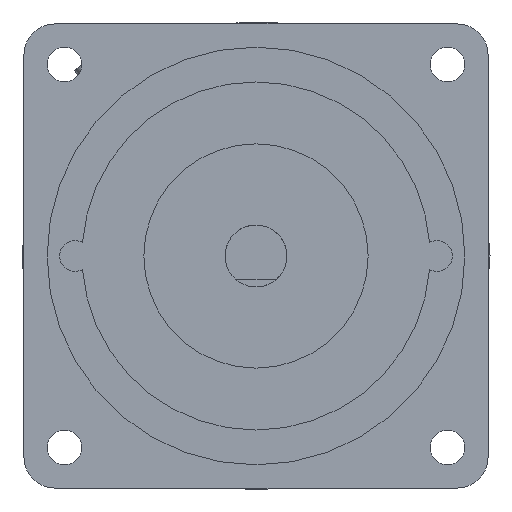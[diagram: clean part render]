
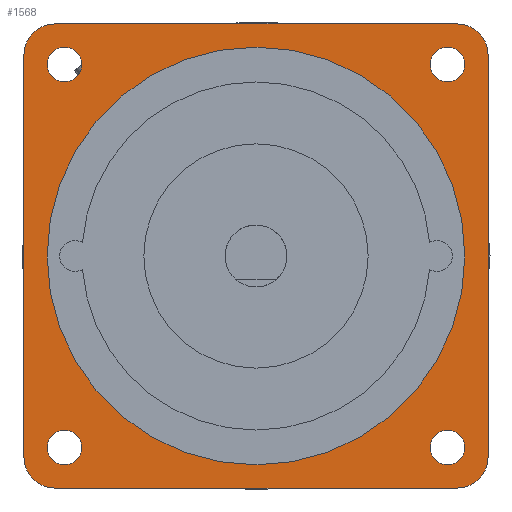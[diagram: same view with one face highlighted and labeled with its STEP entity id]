
A CAD part, front view. The second image highlights one B-rep face of the part: STEP entity #1568.
In plain terms, the highlighted planar face has unit normal (0, -1, 0).
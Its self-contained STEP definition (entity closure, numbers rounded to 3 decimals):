
#1342=CARTESIAN_POINT('',(24.749,-2.5,-26.999));
#1343=VERTEX_POINT('',#1342);
#1344=CARTESIAN_POINT('',(24.749,-2.5,-24.749));
#1345=DIRECTION('',(0.0,1.0,0.0));
#1346=DIRECTION('',(0.0,0.0,1.0));
#1347=AXIS2_PLACEMENT_3D('',#1344,#1345,#1346);
#1348=CIRCLE('',#1347,2.25);
#1349=EDGE_CURVE('',#1343,#1343,#1348,.T.);
#1370=CARTESIAN_POINT('',(-26.999,-2.5,-24.749));
#1371=VERTEX_POINT('',#1370);
#1372=CARTESIAN_POINT('',(-24.749,-2.5,-24.749));
#1373=DIRECTION('',(0.0,1.0,0.0));
#1374=DIRECTION('',(1.0,0.0,0.0));
#1375=AXIS2_PLACEMENT_3D('',#1372,#1373,#1374);
#1376=CIRCLE('',#1375,2.25);
#1377=EDGE_CURVE('',#1371,#1371,#1376,.T.);
#1398=CARTESIAN_POINT('',(-24.749,-2.5,26.999));
#1399=VERTEX_POINT('',#1398);
#1400=CARTESIAN_POINT('',(-24.749,-2.5,24.749));
#1401=DIRECTION('',(0.0,1.0,0.0));
#1402=DIRECTION('',(0.0,0.0,-1.0));
#1403=AXIS2_PLACEMENT_3D('',#1400,#1401,#1402);
#1404=CIRCLE('',#1403,2.25);
#1405=EDGE_CURVE('',#1399,#1399,#1404,.T.);
#1426=CARTESIAN_POINT('',(26.999,-2.5,24.749));
#1427=VERTEX_POINT('',#1426);
#1428=CARTESIAN_POINT('',(24.749,-2.5,24.749));
#1429=DIRECTION('',(0.0,1.0,0.0));
#1430=DIRECTION('',(-1.0,0.0,0.0));
#1431=AXIS2_PLACEMENT_3D('',#1428,#1429,#1430);
#1432=CIRCLE('',#1431,2.25);
#1433=EDGE_CURVE('',#1427,#1427,#1432,.T.);
#1454=CARTESIAN_POINT('',(26.0,-2.5,30.));
#1455=VERTEX_POINT('',#1454);
#1462=CARTESIAN_POINT('',(30.,-2.5,26.));
#1463=VERTEX_POINT('',#1462);
#1464=CARTESIAN_POINT('',(26.,-2.5,26.));
#1465=DIRECTION('',(0.0,1.0,0.0));
#1466=DIRECTION('',(0.707,0.0,0.707));
#1467=AXIS2_PLACEMENT_3D('',#1464,#1465,#1466);
#1468=CIRCLE('',#1467,4.0);
#1469=EDGE_CURVE('',#1455,#1463,#1468,.T.);
#1480=CARTESIAN_POINT('',(0.,-2.5,0.));
#1481=DIRECTION('',(0.0,1.0,0.0));
#1482=DIRECTION('',(0.0,0.0,1.0));
#1483=AXIS2_PLACEMENT_3D('',#1480,#1481,#1482);
#1484=PLANE('',#1483);
#1485=ORIENTED_EDGE('',*,*,#1469,.F.);
#1486=CARTESIAN_POINT('',(-26.,-2.5,30.));
#1487=VERTEX_POINT('',#1486);
#1488=CARTESIAN_POINT('',(-26.,-2.5,30.));
#1489=DIRECTION('',(1.0,0.0,0.0));
#1490=VECTOR('',#1489,52.0);
#1491=LINE('',#1488,#1490);
#1492=EDGE_CURVE('',#1487,#1455,#1491,.T.);
#1493=ORIENTED_EDGE('',*,*,#1492,.F.);
#1494=CARTESIAN_POINT('',(-30.,-2.5,26.));
#1495=VERTEX_POINT('',#1494);
#1496=CARTESIAN_POINT('',(-26.,-2.5,26.));
#1497=DIRECTION('',(0.0,1.0,0.0));
#1498=DIRECTION('',(-0.707,0.0,0.707));
#1499=AXIS2_PLACEMENT_3D('',#1496,#1497,#1498);
#1500=CIRCLE('',#1499,4.0);
#1501=EDGE_CURVE('',#1495,#1487,#1500,.T.);
#1502=ORIENTED_EDGE('',*,*,#1501,.F.);
#1503=CARTESIAN_POINT('',(-30.,-2.5,-26.));
#1504=VERTEX_POINT('',#1503);
#1505=CARTESIAN_POINT('',(-30.,-2.5,-26.));
#1506=DIRECTION('',(0.0,0.0,1.0));
#1507=VECTOR('',#1506,52.);
#1508=LINE('',#1505,#1507);
#1509=EDGE_CURVE('',#1504,#1495,#1508,.T.);
#1510=ORIENTED_EDGE('',*,*,#1509,.F.);
#1511=CARTESIAN_POINT('',(-26.,-2.5,-30.0));
#1512=VERTEX_POINT('',#1511);
#1513=CARTESIAN_POINT('',(-26.,-2.5,-26.));
#1514=DIRECTION('',(0.0,1.0,0.0));
#1515=DIRECTION('',(-0.707,0.0,-0.707));
#1516=AXIS2_PLACEMENT_3D('',#1513,#1514,#1515);
#1517=CIRCLE('',#1516,4.);
#1518=EDGE_CURVE('',#1512,#1504,#1517,.T.);
#1519=ORIENTED_EDGE('',*,*,#1518,.F.);
#1520=CARTESIAN_POINT('',(26.,-2.5,-30.));
#1521=VERTEX_POINT('',#1520);
#1522=CARTESIAN_POINT('',(26.,-2.5,-30.));
#1523=DIRECTION('',(-1.0,0.0,0.0));
#1524=VECTOR('',#1523,52.0);
#1525=LINE('',#1522,#1524);
#1526=EDGE_CURVE('',#1521,#1512,#1525,.T.);
#1527=ORIENTED_EDGE('',*,*,#1526,.F.);
#1528=CARTESIAN_POINT('',(30.,-2.5,-26.));
#1529=VERTEX_POINT('',#1528);
#1530=CARTESIAN_POINT('',(26.,-2.5,-26.));
#1531=DIRECTION('',(0.0,1.0,0.0));
#1532=DIRECTION('',(0.707,0.0,-0.707));
#1533=AXIS2_PLACEMENT_3D('',#1530,#1531,#1532);
#1534=CIRCLE('',#1533,4.0);
#1535=EDGE_CURVE('',#1529,#1521,#1534,.T.);
#1536=ORIENTED_EDGE('',*,*,#1535,.F.);
#1537=CARTESIAN_POINT('',(30.,-2.5,26.0));
#1538=DIRECTION('',(0.0,0.0,-1.0));
#1539=VECTOR('',#1538,52.);
#1540=LINE('',#1537,#1539);
#1541=EDGE_CURVE('',#1463,#1529,#1540,.T.);
#1542=ORIENTED_EDGE('',*,*,#1541,.F.);
#1543=EDGE_LOOP('',(#1485,#1493,#1502,#1510,#1519,#1527,#1536,#1542));
#1544=FACE_OUTER_BOUND('',#1543,.T.);
#1545=ORIENTED_EDGE('',*,*,#1349,.T.);
#1546=EDGE_LOOP('',(#1545));
#1547=FACE_BOUND('',#1546,.T.);
#1548=ORIENTED_EDGE('',*,*,#1377,.T.);
#1549=EDGE_LOOP('',(#1548));
#1550=FACE_BOUND('',#1549,.T.);
#1551=ORIENTED_EDGE('',*,*,#1405,.T.);
#1552=EDGE_LOOP('',(#1551));
#1553=FACE_BOUND('',#1552,.T.);
#1554=ORIENTED_EDGE('',*,*,#1433,.T.);
#1555=EDGE_LOOP('',(#1554));
#1556=FACE_BOUND('',#1555,.T.);
#1557=CARTESIAN_POINT('',(27.0,-2.5,0.));
#1558=VERTEX_POINT('',#1557);
#1559=CARTESIAN_POINT('',(0.0,-2.5,0.0));
#1560=DIRECTION('',(0.0,1.0,0.0));
#1561=DIRECTION('',(-1.0,0.0,0.0));
#1562=AXIS2_PLACEMENT_3D('',#1559,#1560,#1561);
#1563=CIRCLE('',#1562,27.0);
#1564=EDGE_CURVE('',#1558,#1558,#1563,.T.);
#1565=ORIENTED_EDGE('',*,*,#1564,.T.);
#1566=EDGE_LOOP('',(#1565));
#1567=FACE_BOUND('',#1566,.T.);
#1568=ADVANCED_FACE('',(#1544,#1547,#1550,#1553,#1556,#1567),#1484,.F.);
